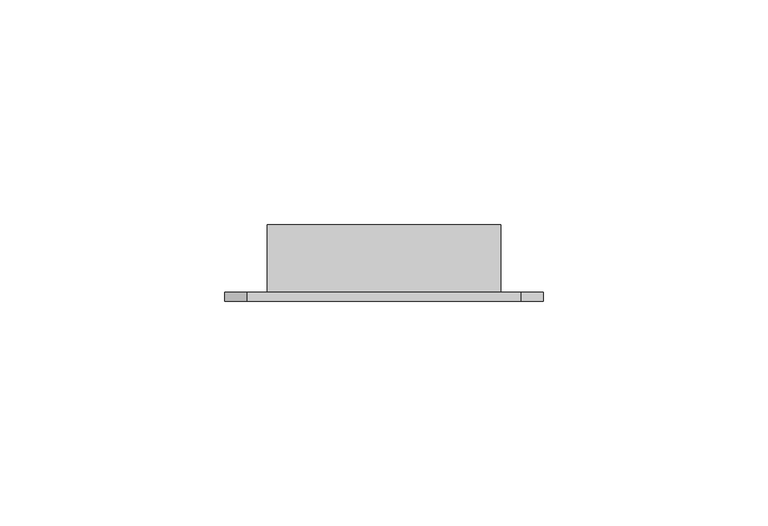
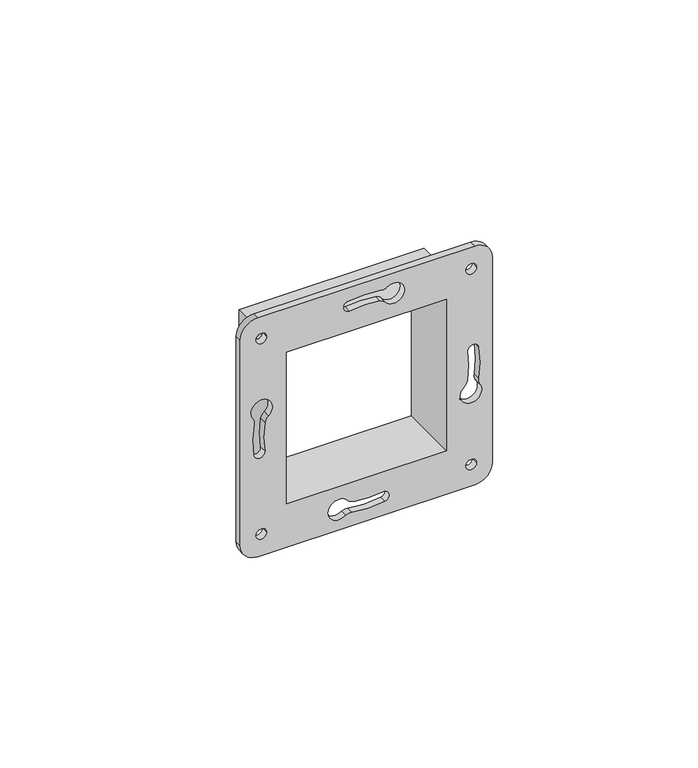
"""IFC4 building model written with IfcOpenShell, lengths in millimetres: proxy geometry, КНС_КаркасСЛапкамиВСтены_DKC : Алюминий."""

from ifc_helpers import new_model, si_unit, frame, origin, place, context, project, spatial, polyline, circle_curve, source, transform, mapped, element, save
from ifc_brep_helpers import plane_surface, cylinder_surface, revolved_surface, advanced_brep


def electrical_fixtures_36bae607(model_context):
    return source(origin(), model_context, "Body", "AdvancedBrep", [
        advanced_brep(
        [(30.45, -34.7, -35.45), (-30.45, -34.7, -35.45), (-35.45, -34.7, -30.45), (-35.45, -34.7, 30.45), (-30.45, -34.7, 35.45), (30.45, -34.7, 35.45), (35.45, -34.7, 30.45), (35.45, -34.7, -30.45), (-26.0, -34.7, -26.0), (26.0, -34.7, -26.0), (26.0, -34.7, 26.0), (-26.0, -34.7, 26.0), (-31.0, -34.7, -29.0410795), (-28.0, -34.7, -29.0410795), (28.0, -34.7, -29.0410795), (31.0, -34.7, -29.0410795), (-31.0, -34.7, 29.0410795), (-28.0, -34.7, 29.0410795), (28.0, -34.7, 29.0410795), (31.0, -34.7, 29.0410795), (5.4221714, -34.7, 27.5208022), (5.8628411, -34.7, 31.7803174), (4.1781087, -34.7, 31.4832536), (-5.0854543, -34.7, 31.5251729), (-4.8499951, -34.7, 28.5241785), (3.6842727, -34.7, 28.5241785), (27.5208022, -34.7, -5.4221714), (31.7803174, -34.7, -5.8628411), (31.4832536, -34.7, -4.1781087), (31.5251729, -34.7, 5.0854543), (28.5241785, -34.7, 4.8499951), (28.5241785, -34.7, -3.6842727), (-5.4221714, -34.7, -27.5208022), (-5.8628411, -34.7, -31.7803174), (-4.1781087, -34.7, -31.4832536), (5.0854543, -34.7, -31.5251729), (4.8499951, -34.7, -28.5241785), (-3.6842727, -34.7, -28.5241785), (-27.5208022, -34.7, 5.4221714), (-31.7803174, -34.7, 5.8628411), (-31.4832536, -34.7, 4.1781087), (-31.5251729, -34.7, -5.0854543), (-28.5241785, -34.7, -4.8499951), (-28.5241785, -34.7, 3.6842727), (30.45, -36.7, -35.45), (35.45, -36.7, -30.45), (35.45, -36.7, 30.45), (30.45, -36.7, 35.45), (-30.45, -36.7, 35.45), (-35.45, -36.7, 30.45), (-35.45, -36.7, -30.45), (-30.45, -36.7, -35.45), (-31.0, -36.7, -29.0410795), (-28.0, -36.7, -29.0410795), (28.0, -36.7, -29.0410795), (31.0, -36.7, -29.0410795), (-31.0, -36.7, 29.0410795), (-28.0, -36.7, 29.0410795), (28.0, -36.7, 29.0410795), (31.0, -36.7, 29.0410795), (22.5, -36.7, 22.5), (22.5, -36.7, -22.5), (-22.5, -36.7, -22.5), (-22.5, -36.7, 22.5), (5.4221714, -36.7, 27.5208022), (3.6842727, -36.7, 28.5241785), (-4.8499951, -36.7, 28.5241785), (-5.0845972, -36.7, 31.5197348), (4.1781087, -36.7, 31.4832536), (5.8628411, -36.7, 31.7803174), (27.5208022, -36.7, -5.4221714), (28.5241785, -36.7, -3.6842727), (28.5241785, -36.7, 4.8499951), (31.5197348, -36.7, 5.0845972), (31.4832536, -36.7, -4.1781087), (31.7803174, -36.7, -5.8628411), (-5.4221714, -36.7, -27.5208022), (-3.6842727, -36.7, -28.5241785), (4.8499951, -36.7, -28.5241785), (5.0845972, -36.7, -31.5197348), (-4.1781087, -36.7, -31.4832536), (-5.8628411, -36.7, -31.7803174), (-27.5208022, -36.7, 5.4221714), (-28.5241785, -36.7, 3.6842727), (-28.5241785, -36.7, -4.8499951), (-31.5197348, -36.7, -5.0845972), (-31.4832536, -36.7, 4.1781087), (-31.7803174, -36.7, 5.8628411), (26.0, -19.7, -26.0), (-26.0, -19.7, -26.0), (-26.0, -19.7, 26.0), (26.0, -19.7, 26.0), (22.5, -19.7, -22.5), (22.5, -19.7, 22.5), (-22.5, -19.7, 22.5), (-22.5, -19.7, -22.5)],
        [
            (0, 1),
            (1, 2, circle_curve(frame((-30.45, -34.7, -30.45), z_axis=(0.0, 1.0, 0.0), x_axis=(1.0, 0.0, 0.0)), 5.0)),
            (2, 3),
            (3, 4, circle_curve(frame((-30.45, -34.7, 30.45), z_axis=(0.0, 1.0, 0.0), x_axis=(1.0, 0.0, 0.0)), 5.0)),
            (4, 5),
            (5, 6, circle_curve(frame((30.45, -34.7, 30.45), z_axis=(0.0, 1.0, 0.0), x_axis=(1.0, 0.0, 0.0)), 5.0)),
            (6, 7),
            (7, 0, circle_curve(frame((30.45, -34.7, -30.45), z_axis=(0.0, 1.0, 0.0), x_axis=(1.0, 0.0, 0.0)), 5.0)),
            (8, 9),
            (9, 10),
            (10, 11),
            (11, 8),
            (12, 13, circle_curve(frame((-29.5, -34.7, -29.0410795), z_axis=(0.0, -1.0, 0.0), x_axis=(1.0, 0.0, 0.0)), 1.5)),
            (13, 12, circle_curve(frame((-29.5, -34.7, -29.0410795), z_axis=(0.0, -1.0, 0.0), x_axis=(1.0, 0.0, 0.0)), 1.5)),
            (14, 15, circle_curve(frame((29.5, -34.7, -29.0410795), z_axis=(0.0, -1.0, 0.0), x_axis=(1.0, 0.0, 0.0)), 1.5)),
            (15, 14, circle_curve(frame((29.5, -34.7, -29.0410795), z_axis=(0.0, -1.0, 0.0), x_axis=(1.0, 0.0, 0.0)), 1.5)),
            (16, 17, circle_curve(frame((-29.5, -34.7, 29.0410795), z_axis=(0.0, -1.0, 0.0), x_axis=(1.0, 0.0, 0.0)), 1.5)),
            (17, 16, circle_curve(frame((-29.5, -34.7, 29.0410795), z_axis=(0.0, -1.0, 0.0), x_axis=(1.0, 0.0, 0.0)), 1.5)),
            (18, 19, circle_curve(frame((29.5, -34.7, 29.0410795), z_axis=(0.0, -1.0, 0.0), x_axis=(1.0, 0.0, 0.0)), 1.5)),
            (19, 18, circle_curve(frame((29.5, -34.7, 29.0410795), z_axis=(0.0, -1.0, 0.0), x_axis=(1.0, 0.0, 0.0)), 1.5)),
            (20, 21, circle_curve(frame((7.7326798, -34.7, 29.4343201), z_axis=(0.0, -1.0, 0.0), x_axis=(1.0, 0.0, 0.0)), 3.0)),
            (21, 22, circle_curve(frame((4.6004444, -34.7, 34.0138971), z_axis=(0.0, 1.0, 0.0), x_axis=(1.0, 0.0, 0.0)), 2.5656429)),
            (22, 23, circle_curve(frame((-0.5828612, -34.7, 2.9554296), z_axis=(0.0, -1.0, 0.0), x_axis=(1.0, 0.0, 0.0)), 28.9223716)),
            (23, 24, circle_curve(frame((-4.8499951, -34.7, 30.0311432), z_axis=(0.0, -1.0, 0.0), x_axis=(1.0, 0.0, 0.0)), 1.5069648)),
            (24, 25, circle_curve(frame((-0.5828612, -34.7, 2.9554296), z_axis=(0.0, 1.0, 0.0), x_axis=(1.0, 0.0, 0.0)), 25.9223716)),
            (25, 20, circle_curve(frame((3.2132005, -34.7, 25.701505), z_axis=(0.0, 1.0, 0.0), x_axis=(1.0, 0.0, 0.0)), 2.8617118)),
            (26, 27, circle_curve(frame((29.4343201, -34.7, -7.7326798), z_axis=(0.0, -1.0, 0.0), x_axis=(1.0, 0.0, 0.0)), 3.0)),
            (27, 28, circle_curve(frame((34.0138971, -34.7, -4.6004444), z_axis=(0.0, 1.0, 0.0), x_axis=(1.0, 0.0, 0.0)), 2.5656429)),
            (28, 29, circle_curve(frame((2.9554296, -34.7, 0.5828612), z_axis=(0.0, -1.0, 0.0), x_axis=(1.0, 0.0, 0.0)), 28.9223716)),
            (29, 30, circle_curve(frame((30.0311432, -34.7, 4.8499951), z_axis=(0.0, -1.0, 0.0), x_axis=(1.0, 0.0, 0.0)), 1.5069648)),
            (30, 31, circle_curve(frame((2.9554296, -34.7, 0.5828612), z_axis=(0.0, 1.0, 0.0), x_axis=(1.0, 0.0, 0.0)), 25.9223716)),
            (31, 26, circle_curve(frame((25.701505, -34.7, -3.2132005), z_axis=(0.0, 1.0, 0.0), x_axis=(1.0, 0.0, 0.0)), 2.8617118)),
            (32, 33, circle_curve(frame((-7.7326798, -34.7, -29.4343201), z_axis=(0.0, -1.0, 0.0), x_axis=(1.0, 0.0, 0.0)), 3.0)),
            (33, 34, circle_curve(frame((-4.6004444, -34.7, -34.0138971), z_axis=(0.0, 1.0, 0.0), x_axis=(1.0, 0.0, 0.0)), 2.5656429)),
            (34, 35, circle_curve(frame((0.5828612, -34.7, -2.9554296), z_axis=(0.0, -1.0, 0.0), x_axis=(1.0, 0.0, 0.0)), 28.9223716)),
            (35, 36, circle_curve(frame((4.8499951, -34.7, -30.0311432), z_axis=(0.0, -1.0, 0.0), x_axis=(1.0, 0.0, 0.0)), 1.5069648)),
            (36, 37, circle_curve(frame((0.5828612, -34.7, -2.9554296), z_axis=(0.0, 1.0, 0.0), x_axis=(1.0, 0.0, 0.0)), 25.9223716)),
            (37, 32, circle_curve(frame((-3.2132005, -34.7, -25.701505), z_axis=(0.0, 1.0, 0.0), x_axis=(1.0, 0.0, 0.0)), 2.8617118)),
            (38, 39, circle_curve(frame((-29.4343201, -34.7, 7.7326798), z_axis=(0.0, -1.0, 0.0), x_axis=(1.0, 0.0, 0.0)), 3.0)),
            (39, 40, circle_curve(frame((-34.0138971, -34.7, 4.6004444), z_axis=(0.0, 1.0, 0.0), x_axis=(1.0, 0.0, 0.0)), 2.5656429)),
            (40, 41, circle_curve(frame((-2.9554296, -34.7, -0.5828612), z_axis=(0.0, -1.0, 0.0), x_axis=(1.0, 0.0, 0.0)), 28.9223716)),
            (41, 42, circle_curve(frame((-30.0311432, -34.7, -4.8499951), z_axis=(0.0, -1.0, 0.0), x_axis=(1.0, 0.0, 0.0)), 1.5069648)),
            (42, 43, circle_curve(frame((-2.9554296, -34.7, -0.5828612), z_axis=(0.0, 1.0, 0.0), x_axis=(1.0, 0.0, 0.0)), 25.9223716)),
            (43, 38, circle_curve(frame((-25.701505, -34.7, 3.2132005), z_axis=(0.0, 1.0, 0.0), x_axis=(1.0, 0.0, 0.0)), 2.8617118)),
            (44, 45, circle_curve(frame((30.45, -36.7, -30.45), z_axis=(0.0, -1.0, 0.0), x_axis=(1.0, 0.0, 0.0)), 5.0)),
            (45, 46),
            (46, 47, circle_curve(frame((30.45, -36.7, 30.45), z_axis=(0.0, -1.0, 0.0), x_axis=(1.0, 0.0, 0.0)), 5.0)),
            (47, 48),
            (48, 49, circle_curve(frame((-30.45, -36.7, 30.45), z_axis=(0.0, -1.0, 0.0), x_axis=(1.0, 0.0, 0.0)), 5.0)),
            (49, 50),
            (50, 51, circle_curve(frame((-30.45, -36.7, -30.45), z_axis=(0.0, -1.0, 0.0), x_axis=(1.0, 0.0, 0.0)), 5.0)),
            (51, 44),
            (52, 53, circle_curve(frame((-29.5, -36.7, -29.0410795), z_axis=(0.0, 1.0, 0.0), x_axis=(1.0, 0.0, 0.0)), 1.5)),
            (53, 52, circle_curve(frame((-29.5, -36.7, -29.0410795), z_axis=(0.0, 1.0, 0.0), x_axis=(1.0, 0.0, 0.0)), 1.5)),
            (54, 55, circle_curve(frame((29.5, -36.7, -29.0410795), z_axis=(0.0, 1.0, 0.0), x_axis=(1.0, 0.0, 0.0)), 1.5)),
            (55, 54, circle_curve(frame((29.5, -36.7, -29.0410795), z_axis=(0.0, 1.0, 0.0), x_axis=(1.0, 0.0, 0.0)), 1.5)),
            (56, 57, circle_curve(frame((-29.5, -36.7, 29.0410795), z_axis=(0.0, 1.0, 0.0), x_axis=(1.0, 0.0, 0.0)), 1.5)),
            (57, 56, circle_curve(frame((-29.5, -36.7, 29.0410795), z_axis=(0.0, 1.0, 0.0), x_axis=(1.0, 0.0, 0.0)), 1.5)),
            (58, 59, circle_curve(frame((29.5, -36.7, 29.0410795), z_axis=(0.0, 1.0, 0.0), x_axis=(1.0, 0.0, 0.0)), 1.5)),
            (59, 58, circle_curve(frame((29.5, -36.7, 29.0410795), z_axis=(0.0, 1.0, 0.0), x_axis=(1.0, 0.0, 0.0)), 1.5)),
            (60, 61),
            (61, 62),
            (62, 63),
            (63, 60),
            (64, 65, circle_curve(frame((3.2132005, -36.7, 25.701505), z_axis=(0.0, -1.0, 0.0), x_axis=(1.0, 0.0, 0.0)), 2.8617118)),
            (65, 66, circle_curve(frame((-0.5828612, -36.7, 2.9554296), z_axis=(0.0, -1.0, 0.0), x_axis=(1.0, 0.0, 0.0)), 25.9223716)),
            (66, 67, circle_curve(frame((-4.8499951, -36.7, 30.0311432), z_axis=(0.0, 1.0, 0.0), x_axis=(1.0, 0.0, 0.0)), 1.5069648)),
            (67, 68, circle_curve(frame((-0.5828612, -36.7, 2.9554296), z_axis=(0.0, 1.0, 0.0), x_axis=(1.0, 0.0, 0.0)), 28.9223716)),
            (68, 69, circle_curve(frame((4.6004444, -36.7, 34.0138971), z_axis=(0.0, -1.0, 0.0), x_axis=(1.0, 0.0, 0.0)), 2.5656429)),
            (69, 64, circle_curve(frame((7.7326798, -36.7, 29.4343201), z_axis=(0.0, 1.0, 0.0), x_axis=(1.0, 0.0, 0.0)), 3.0)),
            (70, 71, circle_curve(frame((25.701505, -36.7, -3.2132005), z_axis=(0.0, -1.0, 0.0), x_axis=(1.0, 0.0, 0.0)), 2.8617118)),
            (71, 72, circle_curve(frame((2.9554296, -36.7, 0.5828612), z_axis=(0.0, -1.0, 0.0), x_axis=(1.0, 0.0, 0.0)), 25.9223716)),
            (72, 73, circle_curve(frame((30.0311432, -36.7, 4.8499951), z_axis=(0.0, 1.0, 0.0), x_axis=(1.0, 0.0, 0.0)), 1.5069648)),
            (73, 74, circle_curve(frame((2.9554296, -36.7, 0.5828612), z_axis=(0.0, 1.0, 0.0), x_axis=(1.0, 0.0, 0.0)), 28.9223716)),
            (74, 75, circle_curve(frame((34.0138971, -36.7, -4.6004444), z_axis=(0.0, -1.0, 0.0), x_axis=(1.0, 0.0, 0.0)), 2.5656429)),
            (75, 70, circle_curve(frame((29.4343201, -36.7, -7.7326798), z_axis=(0.0, 1.0, 0.0), x_axis=(1.0, 0.0, 0.0)), 3.0)),
            (76, 77, circle_curve(frame((-3.2132005, -36.7, -25.701505), z_axis=(0.0, -1.0, 0.0), x_axis=(1.0, 0.0, 0.0)), 2.8617118)),
            (77, 78, circle_curve(frame((0.5828612, -36.7, -2.9554296), z_axis=(0.0, -1.0, 0.0), x_axis=(1.0, 0.0, 0.0)), 25.9223716)),
            (78, 79, circle_curve(frame((4.8499951, -36.7, -30.0311432), z_axis=(0.0, 1.0, 0.0), x_axis=(1.0, 0.0, 0.0)), 1.5069648)),
            (79, 80, circle_curve(frame((0.5828612, -36.7, -2.9554296), z_axis=(0.0, 1.0, 0.0), x_axis=(1.0, 0.0, 0.0)), 28.9223716)),
            (80, 81, circle_curve(frame((-4.6004444, -36.7, -34.0138971), z_axis=(0.0, -1.0, 0.0), x_axis=(1.0, 0.0, 0.0)), 2.5656429)),
            (81, 76, circle_curve(frame((-7.7326798, -36.7, -29.4343201), z_axis=(0.0, 1.0, 0.0), x_axis=(1.0, 0.0, 0.0)), 3.0)),
            (82, 83, circle_curve(frame((-25.701505, -36.7, 3.2132005), z_axis=(0.0, -1.0, 0.0), x_axis=(1.0, 0.0, 0.0)), 2.8617118)),
            (83, 84, circle_curve(frame((-2.9554296, -36.7, -0.5828612), z_axis=(0.0, -1.0, 0.0), x_axis=(1.0, 0.0, 0.0)), 25.9223716)),
            (84, 85, circle_curve(frame((-30.0311432, -36.7, -4.8499951), z_axis=(0.0, 1.0, 0.0), x_axis=(1.0, 0.0, 0.0)), 1.5069648)),
            (85, 86, circle_curve(frame((-2.9554296, -36.7, -0.5828612), z_axis=(0.0, 1.0, 0.0), x_axis=(1.0, 0.0, 0.0)), 28.9223716)),
            (86, 87, circle_curve(frame((-34.0138971, -36.7, 4.6004444), z_axis=(0.0, -1.0, 0.0), x_axis=(1.0, 0.0, 0.0)), 2.5656429)),
            (87, 82, circle_curve(frame((-29.4343201, -36.7, 7.7326798), z_axis=(0.0, 1.0, 0.0), x_axis=(1.0, 0.0, 0.0)), 3.0)),
            (0, 44),
            (51, 1),
            (2, 50),
            (49, 3),
            (4, 48),
            (47, 5),
            (6, 46),
            (45, 7),
            (88, 89),
            (89, 90),
            (90, 91),
            (91, 88),
            (92, 93),
            (93, 94),
            (94, 95),
            (95, 92),
            (88, 9),
            (8, 89),
            (11, 90),
            (10, 91),
            (12, 52),
            (53, 13),
            (14, 54),
            (55, 15),
            (16, 56),
            (57, 17),
            (18, 58),
            (59, 19),
            (92, 61),
            (60, 93),
            (95, 62),
            (94, 63),
            (20, 64),
            (69, 21),
            (68, 22),
            (67, 23),
            (66, 24),
            (65, 25),
            (26, 70),
            (75, 27),
            (74, 28),
            (73, 29),
            (72, 30),
            (71, 31),
            (32, 76),
            (81, 33),
            (80, 34),
            (79, 35),
            (78, 36),
            (77, 37),
            (38, 82),
            (87, 39),
            (86, 40),
            (85, 41),
            (84, 42),
            (83, 43),
        ],
        [
            plane_surface(frame((-35.45, -34.7, -35.45), z_axis=(0.0, 1.0, 0.0), x_axis=(-1.0, 0.0, -2.2547924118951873e-12))),
            plane_surface(frame((-35.45, -36.7, -35.45), z_axis=(0.0, -1.0, 0.0), x_axis=(1.0, 0.0, 2.2547924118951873e-12))),
            plane_surface(frame((30.45, -34.7, -35.45), z_axis=(2.2547924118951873e-12, 0.0, -1.0), x_axis=(0.0, -1.0, 0.0))),
            plane_surface(frame((-35.45, -34.7, -30.45), z_axis=(-1.0, 0.0, 0.0), x_axis=(0.0, -1.0, 0.0))),
            plane_surface(frame((-30.45, -34.7, 35.45), z_axis=(-2.3662713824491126e-12, 0.0, 1.0), x_axis=(0.0, -1.0, 0.0))),
            plane_surface(frame((35.45, -34.7, 30.45), z_axis=(1.0, 0.0, 0.0), x_axis=(0.0, -1.0, 0.0))),
            plane_surface(frame((-26.0, -19.7, -26.0), z_axis=(0.0, 1.0, 0.0), x_axis=(-1.0, 0.0, 0.0))),
            plane_surface(frame((26.0, -19.7, -26.0), z_axis=(0.0, 0.0, -1.0), x_axis=(0.0, -1.0, 0.0))),
            plane_surface(frame((-26.0, -19.7, -26.0), z_axis=(-1.0, 0.0, 0.0), x_axis=(0.0, -1.0, 0.0))),
            plane_surface(frame((-26.0, -19.7, 26.0), z_axis=(0.0, 0.0, 1.0), x_axis=(0.0, -1.0, 0.0))),
            plane_surface(frame((26.0, -19.7, 26.0), z_axis=(1.0, 0.0, 0.0), x_axis=(0.0, -1.0, 0.0))),
            cylinder_surface(frame((-30.45, -36.7, -30.45), z_axis=(0.0, 1.0, 0.0), x_axis=(1.0, 0.0, 0.0)), 5.0),
            cylinder_surface(frame((-30.45, -36.7, 30.45), z_axis=(0.0, 1.0, 0.0), x_axis=(1.0, 0.0, 0.0)), 5.0),
            cylinder_surface(frame((30.45, -36.7, 30.45), z_axis=(0.0, 1.0, 0.0), x_axis=(1.0, 0.0, 0.0)), 5.0),
            cylinder_surface(frame((30.45, -36.7, -30.45), z_axis=(0.0, 1.0, 0.0), x_axis=(1.0, 0.0, 0.0)), 5.0),
            revolved_surface(polyline([(-28.0, -36.7, -29.0410795), (-28.0, -34.7, -29.0410795)]), (-29.5, -34.7, -29.0410795), (0.0, -1.0, 0.0)),
            revolved_surface(polyline([(31.0, -36.7, -29.0410795), (31.0, -34.7, -29.0410795)]), (29.5, -34.7, -29.0410795), (0.0, -1.0, 0.0)),
            revolved_surface(polyline([(-28.0, -36.7, 29.0410795), (-28.0, -34.7, 29.0410795)]), (-29.5, -34.7, 29.0410795), (0.0, -1.0, 0.0)),
            revolved_surface(polyline([(31.0, -36.7, 29.0410795), (31.0, -34.7, 29.0410795)]), (29.5, -34.7, 29.0410795), (0.0, -1.0, 0.0)),
            plane_surface(frame((22.5, -19.7, 22.5), z_axis=(-1.0, 0.0, 0.0), x_axis=(0.0, -1.0, 0.0))),
            plane_surface(frame((22.5, -19.7, -22.5), z_axis=(0.0, 0.0, 1.0), x_axis=(0.0, -1.0, 0.0))),
            plane_surface(frame((-22.5, -19.7, -22.5), z_axis=(1.0, 0.0, 0.0), x_axis=(0.0, -1.0, 0.0))),
            plane_surface(frame((-22.5, -19.7, 22.5), z_axis=(0.0, 0.0, -1.0), x_axis=(0.0, -1.0, 0.0))),
            revolved_surface(polyline([(10.7326798, -36.7, 29.4343201), (10.7326798, -34.7, 29.4343201)]), (7.7326798, -34.7, 29.4343201), (0.0, -1.0, 0.0)),
            cylinder_surface(frame((4.6004444, -34.7, 34.0138971), z_axis=(0.0, 1.0, 0.0), x_axis=(1.0, 0.0, 0.0)), 2.5656429),
            revolved_surface(polyline([(28.3395104, -36.7, 2.9554296), (28.3395104, -34.7, 2.9554296)]), (-0.5828612, -34.7, 2.9554296), (0.0, -1.0, 0.0)),
            revolved_surface(polyline([(-3.3430303, -36.7, 30.0311432), (-3.3430303, -34.7, 30.0311432)]), (-4.8499951, -34.7, 30.0311432), (0.0, -1.0, 0.0)),
            cylinder_surface(frame((-0.5828612, -34.7, 2.9554296), z_axis=(0.0, 1.0, 0.0), x_axis=(1.0, 0.0, 0.0)), 25.9223716),
            cylinder_surface(frame((3.2132005, -34.7, 25.701505), z_axis=(0.0, 1.0, 0.0), x_axis=(1.0, 0.0, 0.0)), 2.8617118),
            revolved_surface(polyline([(32.4343201, -36.7, -7.7326798), (32.4343201, -34.7, -7.7326798)]), (29.4343201, -34.7, -7.7326798), (0.0, -1.0, 0.0)),
            cylinder_surface(frame((34.0138971, -34.7, -4.6004444), z_axis=(0.0, 1.0, 0.0), x_axis=(1.0, 0.0, 0.0)), 2.5656429),
            revolved_surface(polyline([(31.8778012, -36.7, 0.5828612), (31.8778012, -34.7, 0.5828612)]), (2.9554296, -34.7, 0.5828612), (0.0, -1.0, 0.0)),
            revolved_surface(polyline([(31.538107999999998, -36.7, 4.8499951), (31.538107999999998, -34.7, 4.8499951)]), (30.0311432, -34.7, 4.8499951), (0.0, -1.0, 0.0)),
            cylinder_surface(frame((2.9554296, -34.7, 0.5828612), z_axis=(0.0, 1.0, 0.0), x_axis=(1.0, 0.0, 0.0)), 25.9223716),
            cylinder_surface(frame((25.701505, -34.7, -3.2132005), z_axis=(0.0, 1.0, 0.0), x_axis=(1.0, 0.0, 0.0)), 2.8617118),
            revolved_surface(polyline([(-4.7326798, -36.7, -29.4343201), (-4.7326798, -34.7, -29.4343201)]), (-7.7326798, -34.7, -29.4343201), (0.0, -1.0, 0.0)),
            cylinder_surface(frame((-4.6004444, -34.7, -34.0138971), z_axis=(0.0, 1.0, 0.0), x_axis=(1.0, 0.0, 0.0)), 2.5656429),
            revolved_surface(polyline([(29.5052328, -36.7, -2.9554296), (29.5052328, -34.7, -2.9554296)]), (0.5828612, -34.7, -2.9554296), (0.0, -1.0, 0.0)),
            revolved_surface(polyline([(6.3569599, -36.7, -30.0311432), (6.3569599, -34.7, -30.0311432)]), (4.8499951, -34.7, -30.0311432), (0.0, -1.0, 0.0)),
            cylinder_surface(frame((0.5828612, -34.7, -2.9554296), z_axis=(0.0, 1.0, 0.0), x_axis=(1.0, 0.0, 0.0)), 25.9223716),
            cylinder_surface(frame((-3.2132005, -34.7, -25.701505), z_axis=(0.0, 1.0, 0.0), x_axis=(1.0, 0.0, 0.0)), 2.8617118),
            revolved_surface(polyline([(-26.4343201, -36.7, 7.7326798), (-26.4343201, -34.7, 7.7326798)]), (-29.4343201, -34.7, 7.7326798), (0.0, -1.0, 0.0)),
            cylinder_surface(frame((-34.0138971, -34.7, 4.6004444), z_axis=(0.0, 1.0, 0.0), x_axis=(1.0, 0.0, 0.0)), 2.5656429),
            revolved_surface(polyline([(25.966942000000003, -36.7, -0.5828612), (25.966942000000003, -34.7, -0.5828612)]), (-2.9554296, -34.7, -0.5828612), (0.0, -1.0, 0.0)),
            revolved_surface(polyline([(-28.5241784, -36.7, -4.8499951), (-28.5241784, -34.7, -4.8499951)]), (-30.0311432, -34.7, -4.8499951), (0.0, -1.0, 0.0)),
            cylinder_surface(frame((-2.9554296, -34.7, -0.5828612), z_axis=(0.0, 1.0, 0.0), x_axis=(1.0, 0.0, 0.0)), 25.9223716),
            cylinder_surface(frame((-25.701505, -34.7, 3.2132005), z_axis=(0.0, 1.0, 0.0), x_axis=(1.0, 0.0, 0.0)), 2.8617118),
        ],
        [
            (0, [[1, 2, 3, 4, 5, 6, 7, 8], [9, 10, 11, 12], [13, 14], [15, 16], [17, 18], [19, 20], [21, 22, 23, 24, 25, 26], [27, 28, 29, 30, 31, 32], [33, 34, 35, 36, 37, 38], [39, 40, 41, 42, 43, 44]]),
            (1, [[45, 46, 47, 48, 49, 50, 51, 52], [53, 54], [55, 56], [57, 58], [59, 60], [61, 62, 63, 64], [65, 66, 67, 68, 69, 70], [71, 72, 73, 74, 75, 76], [77, 78, 79, 80, 81, 82], [83, 84, 85, 86, 87, 88]]),
            (2, [[-1, 89, -52, 90]]),
            (3, [[-3, 91, -50, 92]]),
            (4, [[-5, 93, -48, 94]]),
            (5, [[-7, 95, -46, 96]]),
            (6, [[97, 98, 99, 100], [101, 102, 103, 104]]),
            (7, [[-97, 105, -9, 106]]),
            (8, [[-98, -106, -12, 107]]),
            (9, [[-99, -107, -11, 108]]),
            (10, [[-100, -108, -10, -105]]),
            (11, [[-2, -90, -51, -91]]),
            (12, [[-4, -92, -49, -93]]),
            (13, [[-6, -94, -47, -95]]),
            (14, [[-8, -96, -45, -89]]),
            (15, [[-13, 109, -54, 110]]),
            (15, [[-14, -110, -53, -109]]),
            (16, [[-15, 111, -56, 112]]),
            (16, [[-16, -112, -55, -111]]),
            (17, [[-17, 113, -58, 114]]),
            (17, [[-18, -114, -57, -113]]),
            (18, [[-19, 115, -60, 116]]),
            (18, [[-20, -116, -59, -115]]),
            (19, [[117, -61, 118, -101]]),
            (20, [[-117, -104, 119, -62]]),
            (21, [[-119, -103, 120, -63]]),
            (22, [[-118, -64, -120, -102]]),
            (23, [[-21, 121, -70, 122]]),
            (24, [[-22, -122, -69, 123]]),
            (25, [[-23, -123, -68, 124]]),
            (26, [[-24, -124, -67, 125]]),
            (27, [[-25, -125, -66, 126]]),
            (28, [[-26, -126, -65, -121]]),
            (29, [[-27, 127, -76, 128]]),
            (30, [[-28, -128, -75, 129]]),
            (31, [[-29, -129, -74, 130]]),
            (32, [[-30, -130, -73, 131]]),
            (33, [[-31, -131, -72, 132]]),
            (34, [[-32, -132, -71, -127]]),
            (35, [[-33, 133, -82, 134]]),
            (36, [[-34, -134, -81, 135]]),
            (37, [[-35, -135, -80, 136]]),
            (38, [[-36, -136, -79, 137]]),
            (39, [[-37, -137, -78, 138]]),
            (40, [[-38, -138, -77, -133]]),
            (41, [[-39, 139, -88, 140]]),
            (42, [[-40, -140, -87, 141]]),
            (43, [[-41, -141, -86, 142]]),
            (44, [[-42, -142, -85, 143]]),
            (45, [[-43, -143, -84, 144]]),
            (46, [[-44, -144, -83, -139]]),
        ],
    ),
    ])


if __name__ == "__main__":
    model = new_model("IFC4")
    model_context = context("Model", 3, world=origin())
    ifc_project = project(units=[si_unit("LENGTHUNIT", "METRE", prefix="MILLI")], contexts=[model_context])
    site = spatial("IfcSite", under=ifc_project)
    building = spatial("IfcBuilding", under=site)
    placement = place(None, origin())
    electrical_fixtures_shape = electrical_fixtures_36bae607(model_context)
    element("IfcBuildingElementProxy", 1, Name="КНС_КаркасСЛапкамиВСтены_DKC : Алюминий", ObjectType="КНС_КаркасСЛапкамиВСтены_DKC : Алюминий", at=placement, inside=building, context=model_context, shape_type="MappedRepresentation", body=[
        mapped(electrical_fixtures_shape, transform((0.0, 0.0, 0.0), x_axis=(1.0, 0.0, 0.0), y_axis=(0.0, 1.0, 0.0), z_axis=(0.0, 0.0, 1.0))),
    ])
    save(model, "model.ifc")
